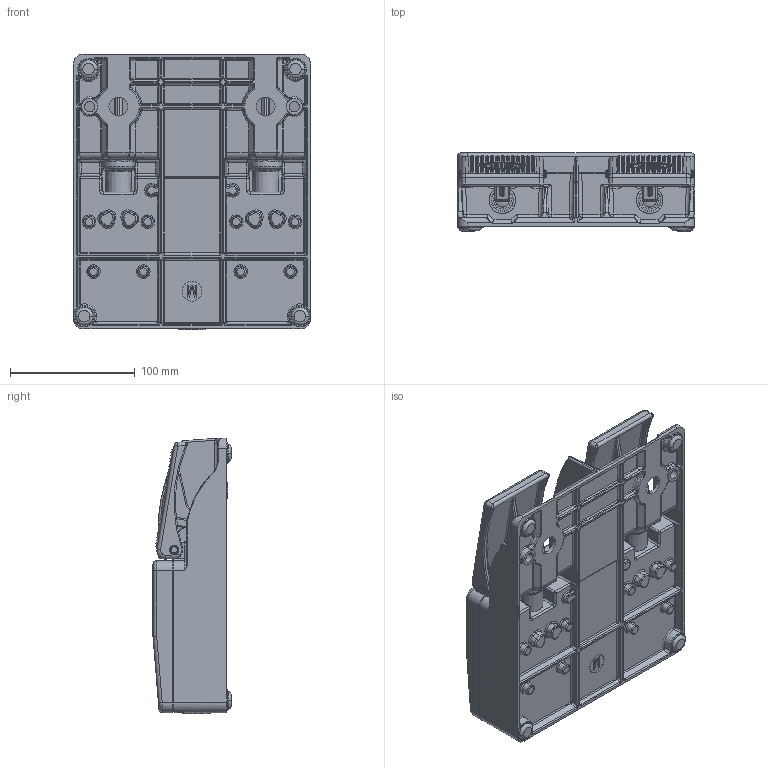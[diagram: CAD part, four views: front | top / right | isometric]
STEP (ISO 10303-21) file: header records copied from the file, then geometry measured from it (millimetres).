
FILE_DESCRIPTION((''),'2;1');
FILE_NAME('6062330021_K_SW0001','2012-10-02T',('Y.Storm'),(''),'PRO/ENGINEER BY PARAMETRIC TECHNOLOGY CORPORATION, 2012010','PRO/ENGINEER BY PARAMETRIC TECHNOLOGY CORPORATION, 2012010','');
FILE_SCHEMA(('AUTOMOTIVE_DESIGN_CC2 { 1 2 10303 214 -1 1 5 2 }'));
Products named in the file (1): 6062330021_K_SW0001
Bounding box: 190 x 62.5 x 220.8 mm (x, y, z)
Volume: 1426687.4 mm3; surface area: 211727.4 mm2
Topology: 3 solids, 5 shells, 5452 faces, 13302 edges, 8348 vertices
Faces by surface type: plane 3755, cylinder 814, bspline 416, torus 267, cone 144, sphere 56
Entity records: 275756 total; most frequent: CARTESIAN_POINT 66853, ORIENTED_EDGE 26580, DIRECTION 24024, PRESENTATION_STYLE_ASSIGNMENT 18631, STYLED_ITEM 13295, CURVE_STYLE 13290, EDGE_CURVE 13290, VECTOR 9972
